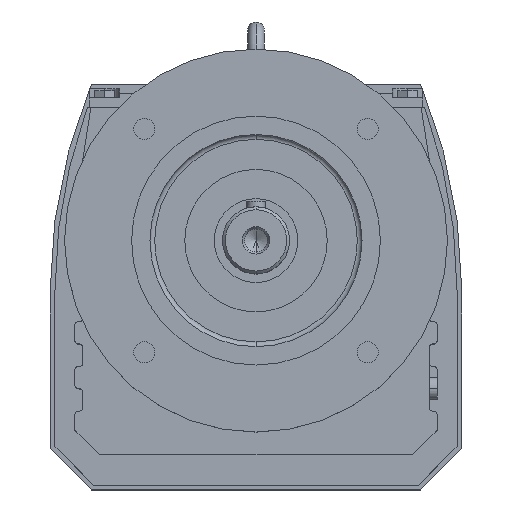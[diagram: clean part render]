
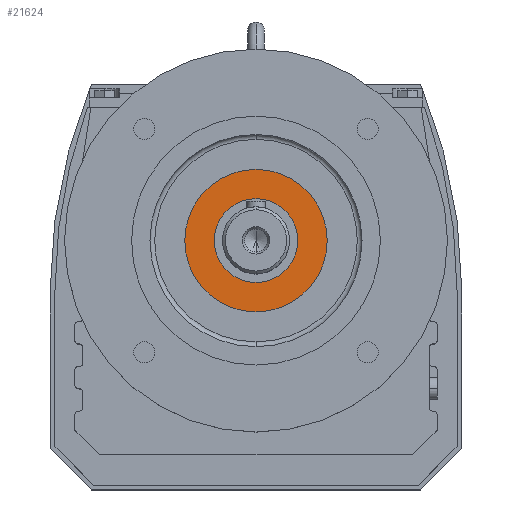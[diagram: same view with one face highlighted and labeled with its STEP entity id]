
A CAD part, top view. The second image highlights one B-rep face of the part: STEP entity #21624.
In plain terms, the highlighted planar face has unit normal (0, 0, 1).
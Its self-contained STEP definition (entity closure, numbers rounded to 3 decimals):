
#21389 = CYLINDRICAL_SURFACE('',#21390,37.209);
#21390 = AXIS2_PLACEMENT_3D('',#21391,#21392,#21393);
#21391 = CARTESIAN_POINT('',(0.,20.7,280.));
#21392 = DIRECTION('',(0.,0.,1.));
#21393 = DIRECTION('',(0.,-1.,0.));
#21442 = CYLINDRICAL_SURFACE('',#21443,37.209);
#21443 = AXIS2_PLACEMENT_3D('',#21444,#21445,#21446);
#21444 = CARTESIAN_POINT('',(0.,20.7,280.));
#21445 = DIRECTION('',(0.,0.,1.));
#21446 = DIRECTION('',(0.,-1.,0.));
#21483 = EDGE_CURVE('',#21484,#21486,#21488,.T.);
#21484 = VERTEX_POINT('',#21485);
#21485 = CARTESIAN_POINT('',(0.,-16.509,203.));
#21486 = VERTEX_POINT('',#21487);
#21487 = CARTESIAN_POINT('',(0.,57.909,203.));
#21488 = SURFACE_CURVE('',#21489,(#21494,#21523),.PCURVE_S1.);
#21489 = CIRCLE('',#21490,37.209);
#21490 = AXIS2_PLACEMENT_3D('',#21491,#21492,#21493);
#21491 = CARTESIAN_POINT('',(0.,20.7,203.));
#21492 = DIRECTION('',(0.,0.,-1.));
#21493 = DIRECTION('',(-1.,0.,0.));
#21494 = PCURVE('',#21442,#21495);
#21495 = DEFINITIONAL_REPRESENTATION('',(#21496),#21522);
#21496 = B_SPLINE_CURVE_WITH_KNOTS('',3,(#21497,#21498,#21499,#21500,
    #21501,#21502,#21503,#21504,#21505,#21506,#21507,#21508,#21509,
    #21510,#21511,#21512,#21513,#21514,#21515,#21516,#21517,#21518,
    #21519,#21520,#21521),.UNSPECIFIED.,.F.,.F.,(4,1,1,1,1,1,1,1,1,1,1,1
    ,1,1,1,1,1,1,1,1,1,1,4),(4.712,4.855,
    4.998,5.141,5.284,5.426,
    5.569,5.712,5.855,5.998,
    6.14,6.283,6.426,6.569,
    6.712,6.854,6.997,7.14,
    7.283,7.426,7.568,7.711,
    7.854),.QUASI_UNIFORM_KNOTS.);
#21497 = CARTESIAN_POINT('',(6.283,-77.));
#21498 = CARTESIAN_POINT('',(6.236,-77.));
#21499 = CARTESIAN_POINT('',(6.14,-77.));
#21500 = CARTESIAN_POINT('',(5.998,-77.));
#21501 = CARTESIAN_POINT('',(5.855,-77.));
#21502 = CARTESIAN_POINT('',(5.712,-77.));
#21503 = CARTESIAN_POINT('',(5.569,-77.));
#21504 = CARTESIAN_POINT('',(5.426,-77.));
#21505 = CARTESIAN_POINT('',(5.284,-77.));
#21506 = CARTESIAN_POINT('',(5.141,-77.));
#21507 = CARTESIAN_POINT('',(4.998,-77.));
#21508 = CARTESIAN_POINT('',(4.855,-77.));
#21509 = CARTESIAN_POINT('',(4.712,-77.));
#21510 = CARTESIAN_POINT('',(4.57,-77.));
#21511 = CARTESIAN_POINT('',(4.427,-77.));
#21512 = CARTESIAN_POINT('',(4.284,-77.));
#21513 = CARTESIAN_POINT('',(4.141,-77.));
#21514 = CARTESIAN_POINT('',(3.998,-77.));
#21515 = CARTESIAN_POINT('',(3.856,-77.));
#21516 = CARTESIAN_POINT('',(3.713,-77.));
#21517 = CARTESIAN_POINT('',(3.57,-77.));
#21518 = CARTESIAN_POINT('',(3.427,-77.));
#21519 = CARTESIAN_POINT('',(3.284,-77.));
#21520 = CARTESIAN_POINT('',(3.189,-77.));
#21521 = CARTESIAN_POINT('',(3.142,-77.));
#21522 = ( GEOMETRIC_REPRESENTATION_CONTEXT(2) 
PARAMETRIC_REPRESENTATION_CONTEXT() REPRESENTATION_CONTEXT('2D SPACE',''
  ) );
#21523 = PCURVE('',#21524,#21529);
#21524 = PLANE('',#21525);
#21525 = AXIS2_PLACEMENT_3D('',#21526,#21527,#21528);
#21526 = CARTESIAN_POINT('',(-16.051,14.701,203.));
#21527 = DIRECTION('',(0.,0.,-1.));
#21528 = DIRECTION('',(-1.,0.,0.));
#21529 = DEFINITIONAL_REPRESENTATION('',(#21530),#21534);
#21530 = CIRCLE('',#21531,37.209);
#21531 = AXIS2_PLACEMENT_2D('',#21532,#21533);
#21532 = CARTESIAN_POINT('',(-16.051,5.999));
#21533 = DIRECTION('',(1.,0.));
#21534 = ( GEOMETRIC_REPRESENTATION_CONTEXT(2) 
PARAMETRIC_REPRESENTATION_CONTEXT() REPRESENTATION_CONTEXT('2D SPACE',''
  ) );
#21581 = EDGE_CURVE('',#21486,#21484,#21582,.T.);
#21582 = SURFACE_CURVE('',#21583,(#21588,#21617),.PCURVE_S1.);
#21583 = CIRCLE('',#21584,37.209);
#21584 = AXIS2_PLACEMENT_3D('',#21585,#21586,#21587);
#21585 = CARTESIAN_POINT('',(0.,20.7,203.));
#21586 = DIRECTION('',(0.,0.,-1.));
#21587 = DIRECTION('',(-1.,0.,0.));
#21588 = PCURVE('',#21389,#21589);
#21589 = DEFINITIONAL_REPRESENTATION('',(#21590),#21616);
#21590 = B_SPLINE_CURVE_WITH_KNOTS('',3,(#21591,#21592,#21593,#21594,
    #21595,#21596,#21597,#21598,#21599,#21600,#21601,#21602,#21603,
    #21604,#21605,#21606,#21607,#21608,#21609,#21610,#21611,#21612,
    #21613,#21614,#21615),.UNSPECIFIED.,.F.,.F.,(4,1,1,1,1,1,1,1,1,1,1,1
    ,1,1,1,1,1,1,1,1,1,1,4),(1.571,1.714,
    1.856,1.999,2.142,2.285,
    2.428,2.57,2.713,2.856,
    2.999,3.142,3.284,3.427,
    3.57,3.713,3.856,3.998,
    4.141,4.284,4.427,4.57,
    4.712),.QUASI_UNIFORM_KNOTS.);
#21591 = CARTESIAN_POINT('',(3.142,-77.));
#21592 = CARTESIAN_POINT('',(3.094,-77.));
#21593 = CARTESIAN_POINT('',(2.999,-77.));
#21594 = CARTESIAN_POINT('',(2.856,-77.));
#21595 = CARTESIAN_POINT('',(2.713,-77.));
#21596 = CARTESIAN_POINT('',(2.57,-77.));
#21597 = CARTESIAN_POINT('',(2.428,-77.));
#21598 = CARTESIAN_POINT('',(2.285,-77.));
#21599 = CARTESIAN_POINT('',(2.142,-77.));
#21600 = CARTESIAN_POINT('',(1.999,-77.));
#21601 = CARTESIAN_POINT('',(1.856,-77.));
#21602 = CARTESIAN_POINT('',(1.714,-77.));
#21603 = CARTESIAN_POINT('',(1.571,-77.));
#21604 = CARTESIAN_POINT('',(1.428,-77.));
#21605 = CARTESIAN_POINT('',(1.285,-77.));
#21606 = CARTESIAN_POINT('',(1.142,-77.));
#21607 = CARTESIAN_POINT('',(1.,-77.));
#21608 = CARTESIAN_POINT('',(0.857,-77.));
#21609 = CARTESIAN_POINT('',(0.714,-77.));
#21610 = CARTESIAN_POINT('',(0.571,-77.));
#21611 = CARTESIAN_POINT('',(0.428,-77.));
#21612 = CARTESIAN_POINT('',(0.286,-77.));
#21613 = CARTESIAN_POINT('',(0.143,-77.));
#21614 = CARTESIAN_POINT('',(0.048,-77.));
#21615 = CARTESIAN_POINT('',(0.,-77.));
#21616 = ( GEOMETRIC_REPRESENTATION_CONTEXT(2) 
PARAMETRIC_REPRESENTATION_CONTEXT() REPRESENTATION_CONTEXT('2D SPACE',''
  ) );
#21617 = PCURVE('',#21524,#21618);
#21618 = DEFINITIONAL_REPRESENTATION('',(#21619),#21623);
#21619 = CIRCLE('',#21620,37.209);
#21620 = AXIS2_PLACEMENT_2D('',#21621,#21622);
#21621 = CARTESIAN_POINT('',(-16.051,5.999));
#21622 = DIRECTION('',(1.,0.));
#21623 = ( GEOMETRIC_REPRESENTATION_CONTEXT(2) 
PARAMETRIC_REPRESENTATION_CONTEXT() REPRESENTATION_CONTEXT('2D SPACE',''
  ) );
#21624 = ADVANCED_FACE('',(#21625,#21691),#21524,.F.);
#21625 = FACE_BOUND('',#21626,.T.);
#21626 = EDGE_LOOP('',(#21627,#21661));
#21627 = ORIENTED_EDGE('',*,*,#21628,.F.);
#21628 = EDGE_CURVE('',#21629,#21631,#21633,.T.);
#21629 = VERTEX_POINT('',#21630);
#21630 = CARTESIAN_POINT('',(0.,-1.175,203.));
#21631 = VERTEX_POINT('',#21632);
#21632 = CARTESIAN_POINT('',(0.,42.575,203.));
#21633 = SURFACE_CURVE('',#21634,(#21639,#21650),.PCURVE_S1.);
#21634 = CIRCLE('',#21635,21.875);
#21635 = AXIS2_PLACEMENT_3D('',#21636,#21637,#21638);
#21636 = CARTESIAN_POINT('',(0.,20.7,203.));
#21637 = DIRECTION('',(0.,0.,1.));
#21638 = DIRECTION('',(-1.,0.,0.));
#21639 = PCURVE('',#21524,#21640);
#21640 = DEFINITIONAL_REPRESENTATION('',(#21641),#21649);
#21641 = ( BOUNDED_CURVE() B_SPLINE_CURVE(2,(#21642,#21643,#21644,#21645
    ,#21646,#21647,#21648),.UNSPECIFIED.,.F.,.F.) 
B_SPLINE_CURVE_WITH_KNOTS((1,2,2,2,2,1),(-2.094,0.,
    2.094,4.189,6.283,8.378),
.UNSPECIFIED.) CURVE() GEOMETRIC_REPRESENTATION_ITEM() 
RATIONAL_B_SPLINE_CURVE((1.,0.5,1.,0.5,1.,0.5,1.)) REPRESENTATION_ITEM(
  '') );
#21642 = CARTESIAN_POINT('',(5.824,5.999));
#21643 = CARTESIAN_POINT('',(5.824,-31.889));
#21644 = CARTESIAN_POINT('',(-26.988,-12.945));
#21645 = CARTESIAN_POINT('',(-59.801,5.999));
#21646 = CARTESIAN_POINT('',(-26.988,24.943));
#21647 = CARTESIAN_POINT('',(5.824,43.888));
#21648 = CARTESIAN_POINT('',(5.824,5.999));
#21649 = ( GEOMETRIC_REPRESENTATION_CONTEXT(2) 
PARAMETRIC_REPRESENTATION_CONTEXT() REPRESENTATION_CONTEXT('2D SPACE',''
  ) );
#21650 = PCURVE('',#21651,#21656);
#21651 = CYLINDRICAL_SURFACE('',#21652,21.875);
#21652 = AXIS2_PLACEMENT_3D('',#21653,#21654,#21655);
#21653 = CARTESIAN_POINT('',(0.,20.7,280.));
#21654 = DIRECTION('',(0.,0.,1.));
#21655 = DIRECTION('',(0.,-1.,0.));
#21656 = DEFINITIONAL_REPRESENTATION('',(#21657),#21660);
#21657 = B_SPLINE_CURVE_WITH_KNOTS('',1,(#21658,#21659),.UNSPECIFIED.,
  .F.,.F.,(2,2),(1.571,4.712),
  .PIECEWISE_BEZIER_KNOTS.);
#21658 = CARTESIAN_POINT('',(0.,-77.));
#21659 = CARTESIAN_POINT('',(3.142,-77.));
#21660 = ( GEOMETRIC_REPRESENTATION_CONTEXT(2) 
PARAMETRIC_REPRESENTATION_CONTEXT() REPRESENTATION_CONTEXT('2D SPACE',''
  ) );
#21661 = ORIENTED_EDGE('',*,*,#21662,.F.);
#21662 = EDGE_CURVE('',#21631,#21629,#21663,.T.);
#21663 = SURFACE_CURVE('',#21664,(#21669,#21680),.PCURVE_S1.);
#21664 = CIRCLE('',#21665,21.875);
#21665 = AXIS2_PLACEMENT_3D('',#21666,#21667,#21668);
#21666 = CARTESIAN_POINT('',(0.,20.7,203.));
#21667 = DIRECTION('',(0.,0.,1.));
#21668 = DIRECTION('',(-1.,0.,0.));
#21669 = PCURVE('',#21524,#21670);
#21670 = DEFINITIONAL_REPRESENTATION('',(#21671),#21679);
#21671 = ( BOUNDED_CURVE() B_SPLINE_CURVE(2,(#21672,#21673,#21674,#21675
    ,#21676,#21677,#21678),.UNSPECIFIED.,.F.,.F.) 
B_SPLINE_CURVE_WITH_KNOTS((1,2,2,2,2,1),(-2.094,0.,
    2.094,4.189,6.283,8.378),
.UNSPECIFIED.) CURVE() GEOMETRIC_REPRESENTATION_ITEM() 
RATIONAL_B_SPLINE_CURVE((1.,0.5,1.,0.5,1.,0.5,1.)) REPRESENTATION_ITEM(
  '') );
#21672 = CARTESIAN_POINT('',(5.824,5.999));
#21673 = CARTESIAN_POINT('',(5.824,-31.889));
#21674 = CARTESIAN_POINT('',(-26.988,-12.945));
#21675 = CARTESIAN_POINT('',(-59.801,5.999));
#21676 = CARTESIAN_POINT('',(-26.988,24.943));
#21677 = CARTESIAN_POINT('',(5.824,43.888));
#21678 = CARTESIAN_POINT('',(5.824,5.999));
#21679 = ( GEOMETRIC_REPRESENTATION_CONTEXT(2) 
PARAMETRIC_REPRESENTATION_CONTEXT() REPRESENTATION_CONTEXT('2D SPACE',''
  ) );
#21680 = PCURVE('',#21681,#21686);
#21681 = CYLINDRICAL_SURFACE('',#21682,21.875);
#21682 = AXIS2_PLACEMENT_3D('',#21683,#21684,#21685);
#21683 = CARTESIAN_POINT('',(0.,20.7,280.));
#21684 = DIRECTION('',(0.,0.,1.));
#21685 = DIRECTION('',(0.,-1.,0.));
#21686 = DEFINITIONAL_REPRESENTATION('',(#21687),#21690);
#21687 = B_SPLINE_CURVE_WITH_KNOTS('',1,(#21688,#21689),.UNSPECIFIED.,
  .F.,.F.,(2,2),(4.712,7.854),
  .PIECEWISE_BEZIER_KNOTS.);
#21688 = CARTESIAN_POINT('',(3.142,-77.));
#21689 = CARTESIAN_POINT('',(6.283,-77.));
#21690 = ( GEOMETRIC_REPRESENTATION_CONTEXT(2) 
PARAMETRIC_REPRESENTATION_CONTEXT() REPRESENTATION_CONTEXT('2D SPACE',''
  ) );
#21691 = FACE_BOUND('',#21692,.T.);
#21692 = EDGE_LOOP('',(#21693,#21694));
#21693 = ORIENTED_EDGE('',*,*,#21483,.F.);
#21694 = ORIENTED_EDGE('',*,*,#21581,.F.);
